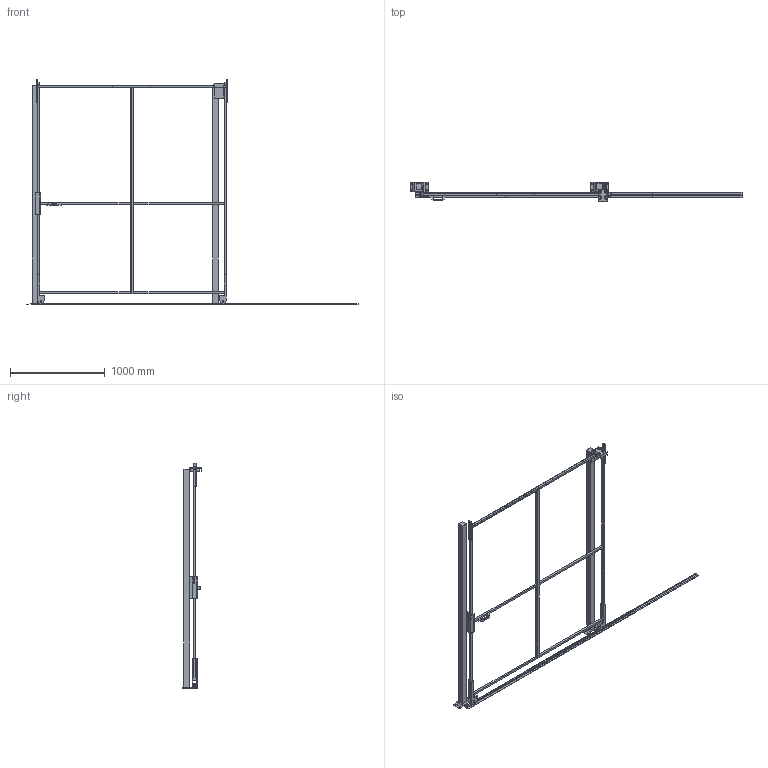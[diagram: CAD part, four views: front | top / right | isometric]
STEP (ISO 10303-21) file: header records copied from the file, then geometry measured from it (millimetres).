
FILE_DESCRIPTION(/* description */ (''),/* implementation_level */ '2;1');
FILE_NAME(/* name */ 'C:\SafeGuarding\ELABORATI\Drawing5_2025-04-02-12-02-21.stp',/* time_stamp */ '2025-04-02T12:02:24+02:00',/* author */ ('admin'),/* organization */ (''),/* preprocessor_version */ 'ST-DEVELOPER v18.1',/* originating_system */ 'AutoCAD Mechanical',/* authorisation */ '');
FILE_SCHEMA (('AUTOMOTIVE_DESIGN { 1 0 10303 214 3 1 1 }'));
Length unit declared in the file: millimetre
Products named in the file (3): Product; R_VFPA.REPE20.10002200; P_VFMA.V260SDU.2320
Assembly tree (4 placements, depth 2):
  Product
    R_VFPA.REPE20.10002200  x2
    P_VFMA.V260SDU.2320  x2
Bounding box: 3511.45 x 210 x 2390 mm (x, y, z)
Volume: 24934082.1 mm3; surface area: 3784520.1 mm2
Topology: 40 solids, 51 shells, 387 faces, 1233 edges, 1237 vertices
Faces by surface type: plane 341, cylinder 40, cone 4, sphere 2
Full cylindrical faces by diameter (mm): 9 x4, 11 x8, 13 x4, 18 x4, 30 x2, 36 x4, 58 x4
Entity records: 11462 total; most frequent: CARTESIAN_POINT 2430, DIRECTION 1753, ORIENTED_EDGE 1622, EDGE_CURVE 860, LINE 781, VECTOR 781, VERTEX_POINT 614, AXIS2_PLACEMENT_3D 486
